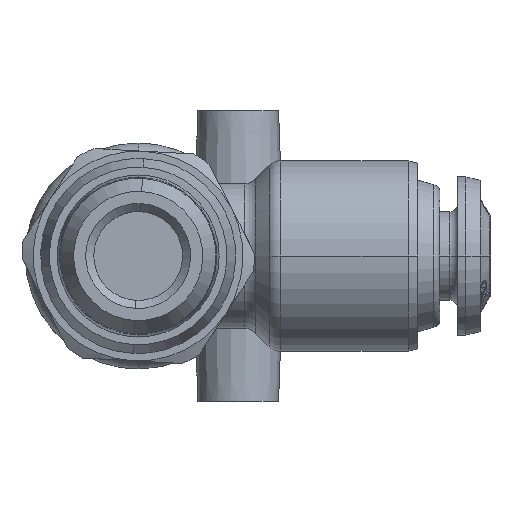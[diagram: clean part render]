
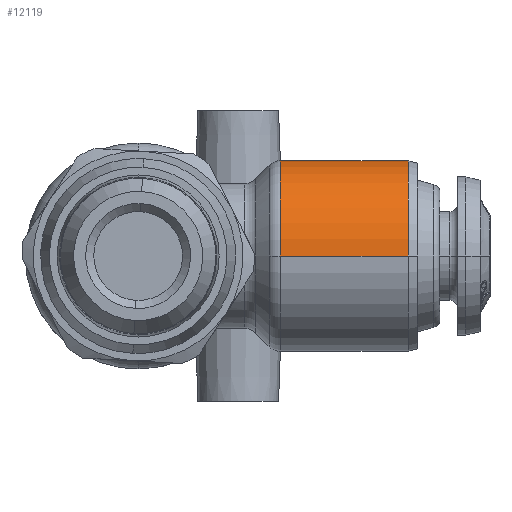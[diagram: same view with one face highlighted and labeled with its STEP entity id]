
A CAD part, left-side view. The second image highlights one B-rep face of the part: STEP entity #12119.
In plain terms, the highlighted cylindrical face has radius 5.9 mm (diameter 11.8 mm), a partial arc.
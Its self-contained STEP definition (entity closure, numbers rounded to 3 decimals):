
#2321 = CARTESIAN_POINT ( 'NONE',  ( -13.5, 0., 0. ) ) ;
#2323 = DIRECTION ( 'NONE',  ( 0., 1., 0. ) ) ;
#2337 = DIRECTION ( 'NONE',  ( -1., 0., 0. ) ) ;
#3038 = AXIS2_PLACEMENT_3D ( 'NONE', #2321, #2323, #2337 ) ;
#3233 = B_SPLINE_CURVE_WITH_KNOTS ( 'NONE', 3,
 ( #37643, #37631, #37632, #37646 ),
 .UNSPECIFIED., .F., .F.,
 ( 4, 4 ),
 ( 0., 0.001 ),
 .UNSPECIFIED. ) ;
#3764 = EDGE_CURVE ( 'NONE', #26537, #26532, #14083, .T. ) ;
#3877 = EDGE_CURVE ( 'NONE', #26532, #26409, #14129, .T. ) ;
#3879 = EDGE_CURVE ( 'NONE', #26447, #26409, #3233, .T. ) ;
#3881 = EDGE_CURVE ( 'NONE', #26325, #26447, #14127, .T. ) ;
#3883 = EDGE_CURVE ( 'NONE', #26537, #26325, #14132, .T. ) ;
#6531 = CARTESIAN_POINT ( 'NONE',  ( -19.4, -8.814, 0. ) ) ;
#6678 = CARTESIAN_POINT ( 'NONE',  ( -7.6, -8.883, 0. ) ) ;
#6745 = CARTESIAN_POINT ( 'NONE',  ( -7.691, -8.814, 1.03 ) ) ;
#6894 = CARTESIAN_POINT ( 'NONE',  ( -7.6, -16.74, 0. ) ) ;
#6902 = CARTESIAN_POINT ( 'NONE',  ( -19.4, -16.74, 0. ) ) ;
#12119 = ADVANCED_FACE ( 'NONE', ( #45927 ), #45935, .T. ) ;
#14083 = CIRCLE ( 'NONE', #50782, 5.9 ) ;
#14127 = CIRCLE ( 'NONE', #50802, 5.9 ) ;
#14129 = LINE ( 'NONE', #37628, #14131 ) ;
#14131 = VECTOR ( 'NONE', #37619, 1000. ) ;
#14132 = LINE ( 'NONE', #37652, #14134 ) ;
#14134 = VECTOR ( 'NONE', #37641, 1000. ) ;
#26325 = VERTEX_POINT ( 'NONE', #6531 ) ;
#26409 = VERTEX_POINT ( 'NONE', #6678 ) ;
#26447 = VERTEX_POINT ( 'NONE', #6745 ) ;
#26532 = VERTEX_POINT ( 'NONE', #6894 ) ;
#26537 = VERTEX_POINT ( 'NONE', #6902 ) ;
#37619 = DIRECTION ( 'NONE',  ( 0., 1., 0. ) ) ;
#37628 = CARTESIAN_POINT ( 'NONE',  ( -7.6, 0., 0. ) ) ;
#37631 = CARTESIAN_POINT ( 'NONE',  ( -7.63, -8.849, 0.69 ) ) ;
#37632 = CARTESIAN_POINT ( 'NONE',  ( -7.6, -8.87, 0.347 ) ) ;
#37641 = DIRECTION ( 'NONE',  ( 0., 1., 0. ) ) ;
#37643 = CARTESIAN_POINT ( 'NONE',  ( -7.691, -8.814, 1.03 ) ) ;
#37646 = CARTESIAN_POINT ( 'NONE',  ( -7.6, -8.883, 0. ) ) ;
#37652 = CARTESIAN_POINT ( 'NONE',  ( -19.4, 0., 0. ) ) ;
#37654 = CARTESIAN_POINT ( 'NONE',  ( -13.5, -8.814, 0. ) ) ;
#37656 = DIRECTION ( 'NONE',  ( 0., 1., 0. ) ) ;
#37658 = DIRECTION ( 'NONE',  ( -1., 0., 0. ) ) ;
#39710 = EDGE_LOOP ( 'NONE', ( #49566, #49567, #49568, #49569, #49570 ) ) ;
#40351 = CARTESIAN_POINT ( 'NONE',  ( -13.5, -16.74, 0. ) ) ;
#40352 = DIRECTION ( 'NONE',  ( 0., 1., 0. ) ) ;
#40353 = DIRECTION ( 'NONE',  ( -1., 0., 0. ) ) ;
#45927 = FACE_OUTER_BOUND ( 'NONE', #39710, .T. ) ;
#45935 = CYLINDRICAL_SURFACE ( 'NONE', #3038, 5.9 ) ;
#49566 = ORIENTED_EDGE ( 'NONE', *, *, #3764, .T. ) ;
#49567 = ORIENTED_EDGE ( 'NONE', *, *, #3877, .T. ) ;
#49568 = ORIENTED_EDGE ( 'NONE', *, *, #3879, .F. ) ;
#49569 = ORIENTED_EDGE ( 'NONE', *, *, #3881, .F. ) ;
#49570 = ORIENTED_EDGE ( 'NONE', *, *, #3883, .F. ) ;
#50782 = AXIS2_PLACEMENT_3D ( 'NONE', #40351, #40352, #40353 ) ;
#50802 = AXIS2_PLACEMENT_3D ( 'NONE', #37654, #37656, #37658 ) ;
